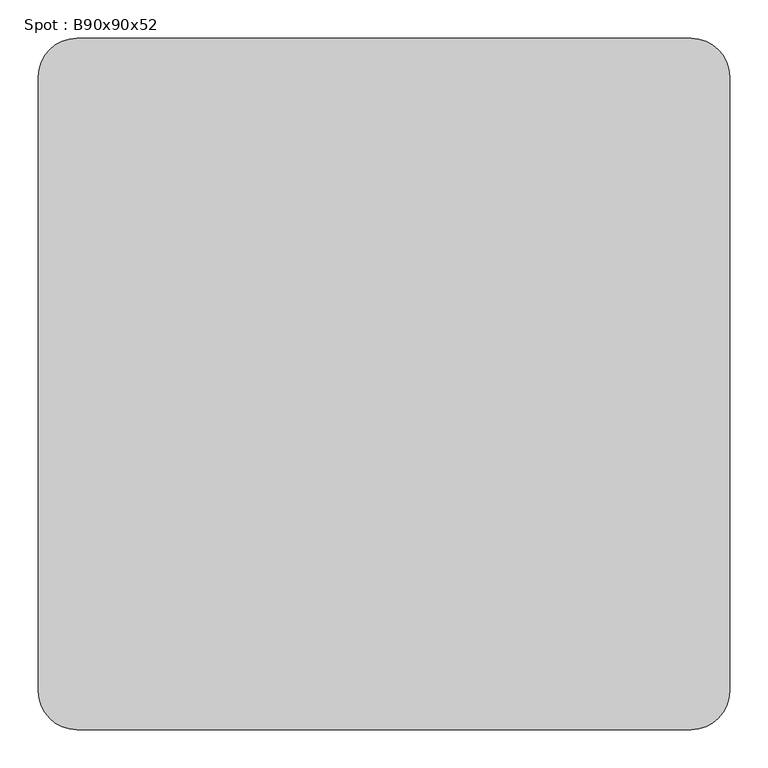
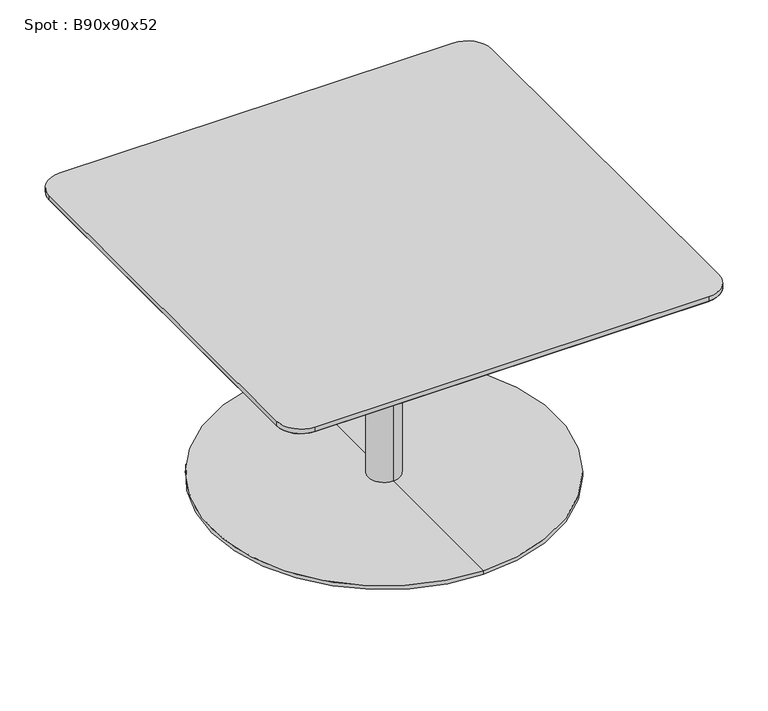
"""IFC4 building model written with IfcOpenShell, lengths in millimetres: furniture geometry, Spot : B90x90x52."""

from ifc_helpers import new_model, si_unit, point, frame, frame_2d, origin, place, context, project, spatial, polyline, circle_curve, trimmed, segment, composite_curve, outline, extrude, source, transform, mapped, element, save
from ifc_brep_helpers import plane_surface, cylinder_surface, revolved_surface, advanced_brep


def spot_b90x90x52_c7cd3348(model_context):
    return source(origin(), model_context, "Body", "SolidModel", [
        advanced_brep(
        [(-400.0, -400.0, 498.0), (-400.0, 400.0, 498.0), (400.0, 400.0, 498.0), (400.0, -400.0, 498.0), (-450.0, -400.0, 510.0), (-400.0, -450.0, 510.0), (400.0, -450.0, 510.0), (450.0, -400.0, 510.0), (450.0, 400.0, 510.0), (400.0, 450.0, 510.0), (-400.0, 450.0, 510.0), (-450.0, 400.0, 510.0)],
        [
            (0, 1),
            (1, 2),
            (2, 3),
            (3, 0),
            (4, 5, circle_curve(frame((-400.0, -400.0, 510.0), z_axis=(0.0, 0.0, 1.0), x_axis=(0.0, -1.0, 0.0)), 50.0)),
            (5, 6),
            (6, 7, circle_curve(frame((400.0, -400.0, 510.0), z_axis=(0.0, 0.0, 1.0), x_axis=(1.0, 0.0, 0.0)), 50.0)),
            (7, 8),
            (8, 9, circle_curve(frame((400.0, 400.0, 510.0), z_axis=(0.0, 0.0, 1.0), x_axis=(0.0, 1.0, 0.0)), 50.0)),
            (9, 10),
            (10, 11, circle_curve(frame((-400.0, 400.0, 510.0), z_axis=(0.0, 0.0, 1.0), x_axis=(-1.0, 0.0, 0.0)), 50.0)),
            (11, 4),
            (4, 0),
            (0, 5),
            (3, 6),
            (3, 7),
            (2, 8),
            (2, 9),
            (1, 10),
            (1, 11),
        ],
        [
            plane_surface(frame((0.0, 0.0, 498.0), z_axis=(0.0, 0.0, -1.0), x_axis=(-1.0, 0.0, 0.0))),
            plane_surface(frame((0.0, 0.0, 510.0), z_axis=(0.0, 0.0, 1.0), x_axis=(-1.0, 0.0, 0.0))),
            revolved_surface(polyline([(-400.0, -400.0, 498.0), (-400.0, -450.0, 510.0)]), (-400.0, -400.0, 498.0), (0.0, 0.0, 1.0)),
            plane_surface(frame((0.0, -450.0, 510.0), z_axis=(0.0, -0.23337295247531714, -0.9723873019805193), x_axis=(-1.0, 0.0, 0.0))),
            revolved_surface(polyline([(400.0, -400.0, 498.0), (450.0, -400.0, 510.0)]), (400.0, -400.0, 498.0), (0.0, 0.0, 1.0)),
            plane_surface(frame((450.0, 0.0, 510.0), z_axis=(0.23337295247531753, 0.0, -0.9723873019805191), x_axis=(0.0, -1.0, 0.0))),
            revolved_surface(polyline([(400.0, 400.0, 498.0), (400.0, 450.0, 510.0)]), (400.0, 400.0, 498.0), (0.0, 0.0, 1.0)),
            plane_surface(frame((0.0, 450.0, 510.0), z_axis=(0.0, 0.23337295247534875, -0.9723873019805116), x_axis=(1.0, 0.0, 0.0))),
            revolved_surface(polyline([(-400.0, 400.0, 498.0), (-450.0, 400.0, 510.0)]), (-400.0, 400.0, 498.0), (0.0, 0.0, 1.0)),
            plane_surface(frame((-450.0, 0.0, 510.0), z_axis=(-0.2333729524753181, 0.0, -0.9723873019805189), x_axis=(0.0, 1.0, 0.0))),
        ],
        [
            (0, [[1, 2, 3, 4]]),
            (1, [[5, 6, 7, 8, 9, 10, 11, 12]]),
            (2, [[-5, 13, 14]]),
            (3, [[-6, -14, -4, 15]]),
            (4, [[-7, -15, 16]]),
            (5, [[-8, -16, -3, 17]]),
            (6, [[-9, -17, 18]]),
            (7, [[-10, -18, -2, 19]]),
            (8, [[-11, -19, 20]]),
            (9, [[-12, -20, -1, -13]]),
        ],
    ),
        extrude(outline(composite_curve([segment(trimmed(circle_curve(frame_2d((400.0, 400.0)), 50.0), [point((400.0, 450.0))], [point((450.0, 400.0))], False, "CARTESIAN"), True, "CONTINUOUS"), segment(polyline([(450.0, 400.0), (450.0, -400.0)]), True, "CONTINUOUS"), segment(trimmed(circle_curve(frame_2d((400.0, -400.0)), 50.0), [point((450.0, -400.0))], [point((400.0, -450.0))], False, "CARTESIAN"), True, "CONTINUOUS"), segment(polyline([(400.0, -450.0), (-400.0, -450.0)]), True, "CONTINUOUS"), segment(trimmed(circle_curve(frame_2d((-400.0, -400.0)), 50.0), [point((-400.0, -450.0))], [point((-450.0, -400.0))], False, "CARTESIAN"), True, "CONTINUOUS"), segment(polyline([(-450.0, -400.0), (-450.0, 400.0)]), True, "CONTINUOUS"), segment(trimmed(circle_curve(frame_2d((-400.0, 400.0)), 50.0), [point((-450.0, 400.0))], [point((-400.0, 450.0))], False, "CARTESIAN"), True, "CONTINUOUS"), segment(polyline([(-400.0, 450.0), (400.0, 450.0)]), True, "CONTINUOUS")], self_intersect=False)), frame((0.0, 0.0, 510.0), z_axis=(0.0, 0.0, 1.0), x_axis=(1.0, 0.0, 0.0)), (0.0, 0.0, 1.0), 10.0),
        advanced_brep(
        [(0.0, 32.0, 10.0), (0.0, -32.0, 10.0), (0.0, -32.0, 467.406916), (0.0, 32.0, 467.406916), (0.0, 350.0, 10.0), (0.0, -350.0, 10.0), (0.0, 350.0, 2.0), (0.0, -350.0, 2.0), (0.0, 0.0, 2.0), (0.0, 150.0, 498.0), (0.0, -150.0, 498.0), (0.0, 0.0, 498.0), (0.0, 150.0, 486.7213673), (0.0, -150.0, 486.7213673)],
        [
            (0, 1, circle_curve(frame((0.0, 0.0, 10.0), z_axis=(0.0, 0.0, 1.0), x_axis=(0.0, -1.0, 0.0)), 32.0)),
            (1, 2),
            (2, 3, circle_curve(frame((0.0, 0.0, 467.406916), z_axis=(0.0, 0.0, -1.0), x_axis=(0.0, -1.0, 0.0)), 32.0)),
            (3, 0),
            (1, 0, circle_curve(frame((0.0, 0.0, 10.0), z_axis=(0.0, 0.0, 1.0), x_axis=(0.0, -1.0, 0.0)), 32.0)),
            (3, 2, circle_curve(frame((0.0, 0.0, 467.406916), z_axis=(0.0, 0.0, -1.0), x_axis=(0.0, -1.0, 0.0)), 32.0)),
            (4, 5, circle_curve(frame((0.0, 0.0, 10.0), z_axis=(0.0, 0.0, 1.0), x_axis=(0.0, -1.0, 0.0)), 350.0)),
            (5, 1),
            (0, 4),
            (5, 4, circle_curve(frame((0.0, 0.0, 10.0), z_axis=(0.0, 0.0, 1.0), x_axis=(0.0, -1.0, 0.0)), 350.0)),
            (6, 7, circle_curve(frame((0.0, 0.0, 2.0), z_axis=(0.0, 0.0, 1.0), x_axis=(0.0, -1.0, 0.0)), 350.0)),
            (7, 5),
            (4, 6),
            (7, 6, circle_curve(frame((0.0, 0.0, 2.0), z_axis=(0.0, 0.0, 1.0), x_axis=(0.0, -1.0, 0.0)), 350.0)),
            (8, 7),
            (6, 8),
            (9, 10, circle_curve(frame((0.0, 0.0, 498.0), z_axis=(0.0, 0.0, 1.0), x_axis=(0.0, -1.0, 0.0)), 150.0)),
            (10, 11),
            (11, 9),
            (10, 9, circle_curve(frame((0.0, 0.0, 498.0), z_axis=(0.0, 0.0, 1.0), x_axis=(0.0, -1.0, 0.0)), 150.0)),
            (12, 13, circle_curve(frame((0.0, 0.0, 486.7213673), z_axis=(0.0, 0.0, 1.0), x_axis=(0.0, -1.0, 0.0)), 150.0)),
            (13, 10),
            (9, 12),
            (13, 12, circle_curve(frame((0.0, 0.0, 486.7213673), z_axis=(0.0, 0.0, 1.0), x_axis=(0.0, -1.0, 0.0)), 150.0)),
            (2, 13),
            (12, 3),
        ],
        [
            cylinder_surface(frame((0.0, 0.0, 860.0), z_axis=(0.0, 0.0, -1.0), x_axis=(0.0, -1.0, 0.0)), 32.0),
            plane_surface(frame((0.0, 0.0, 10.0), z_axis=(0.0, 0.0, 1.0), x_axis=(0.0, -1.0, 0.0))),
            cylinder_surface(frame((0.0, 0.0, 860.0), z_axis=(0.0, 0.0, -1.0), x_axis=(0.0, -1.0, 0.0)), 350.0),
            plane_surface(frame((0.0, 0.0, 2.0), z_axis=(0.0, 0.0, -1.0), x_axis=(0.0, -1.0, 0.0))),
            plane_surface(frame((0.0, 0.0, 498.0), z_axis=(0.0, 0.0, 1.0), x_axis=(0.0, -1.0, 0.0))),
            cylinder_surface(frame((0.0, 0.0, 860.0), z_axis=(0.0, 0.0, -1.0), x_axis=(0.0, -1.0, 0.0)), 150.0),
            revolved_surface(polyline([(0.0, -150.0, 486.7213673), (0.0, -32.0, 467.406916)]), (0.0, 0.0, 860.0), (0.0, 0.0, -1.0)),
        ],
        [
            (0, [[1, 2, 3, 4]]),
            (0, [[5, -4, 6, -2]]),
            (1, [[7, 8, -1, 9]]),
            (1, [[10, -9, -5, -8]]),
            (2, [[11, 12, -7, 13]]),
            (2, [[14, -13, -10, -12]]),
            (3, [[15, -11, 16]]),
            (3, [[-16, -14, -15]]),
            (4, [[17, 18, 19]]),
            (4, [[20, -19, -18]]),
            (5, [[21, 22, -17, 23]]),
            (5, [[24, -23, -20, -22]]),
            (6, [[-3, 25, -21, 26]]),
            (6, [[-6, -26, -24, -25]]),
        ],
    ),
    ])


if __name__ == "__main__":
    model = new_model("IFC4")
    model_context = context("Model", 3, world=origin())
    ifc_project = project(units=[si_unit("LENGTHUNIT", "METRE", prefix="MILLI")], contexts=[model_context])
    site = spatial("IfcSite", under=ifc_project)
    building = spatial("IfcBuilding", under=site)
    placement = place(None, origin())
    spot_b90x90x52_shape = spot_b90x90x52_c7cd3348(model_context)
    element("IfcFurniture", 1, ObjectType="Spot : B90x90x52", at=placement, inside=building, context=model_context, shape_type="MappedRepresentation", body=[
        mapped(spot_b90x90x52_shape, transform((0.0, 0.0, 0.0), x_axis=(1.0, 0.0, 0.0), y_axis=(0.0, 1.0, 0.0), z_axis=(0.0, 0.0, 1.0))),
    ])
    save(model, "model.ifc")
